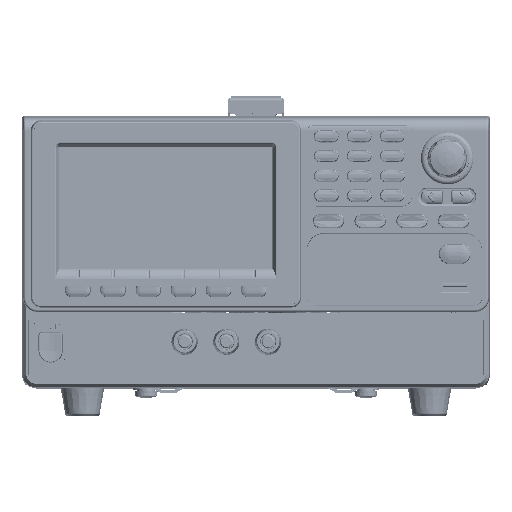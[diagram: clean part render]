
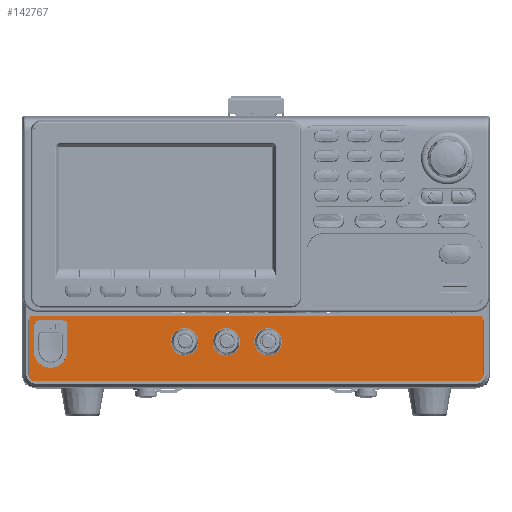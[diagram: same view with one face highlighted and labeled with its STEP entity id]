
A CAD part, top view. The second image highlights one B-rep face of the part: STEP entity #142767.
In plain terms, the highlighted planar face has unit normal (0, 0, 1).
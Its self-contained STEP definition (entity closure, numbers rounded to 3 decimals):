
#142331=CARTESIAN_POINT('',(-101.5,-31.,0.3));
#142332=DIRECTION('',(0.,0.,-1.));
#142333=DIRECTION('',(-1.,0.,0.));
#142334=AXIS2_PLACEMENT_3D('',#142331,#142332,#142333);
#142336=DIRECTION('',(1.,0.,0.));
#142337=VECTOR('',#142336,203.);
#142338=CARTESIAN_POINT('',(-101.5,-29.1,0.3));
#142339=LINE('',#142338,#142337);
#142340=CARTESIAN_POINT('',(101.5,-31.,0.3));
#142341=DIRECTION('',(0.,0.,-1.));
#142342=DIRECTION('',(0.,1.,0.));
#142343=AXIS2_PLACEMENT_3D('',#142340,#142341,#142342);
#142345=DIRECTION('',(0.,-1.,0.));
#142346=VECTOR('',#142345,25.);
#142347=CARTESIAN_POINT('',(103.4,-31.,0.3));
#142348=LINE('',#142347,#142346);
#142349=CARTESIAN_POINT('',(100.5,-56.,0.3));
#142350=DIRECTION('',(0.,0.,-1.));
#142351=DIRECTION('',(1.,0.,0.));
#142352=AXIS2_PLACEMENT_3D('',#142349,#142350,#142351);
#142354=DIRECTION('',(-1.,0.,0.));
#142355=VECTOR('',#142354,201.);
#142356=CARTESIAN_POINT('',(100.5,-58.9,0.3));
#142357=LINE('',#142356,#142355);
#142358=CARTESIAN_POINT('',(-100.5,-56.,0.3));
#142359=DIRECTION('',(0.,0.,-1.));
#142360=DIRECTION('',(0.,-1.,0.));
#142361=AXIS2_PLACEMENT_3D('',#142358,#142359,#142360);
#142363=DIRECTION('',(0.,1.,0.));
#142364=VECTOR('',#142363,25.);
#142365=CARTESIAN_POINT('',(-103.4,-56.,0.3));
#142366=LINE('',#142365,#142364);
#142367=CARTESIAN_POINT('',(-32.5,-41.,0.3));
#142368=DIRECTION('',(0.,0.,1.));
#142369=DIRECTION('',(1.,0.,0.));
#142370=AXIS2_PLACEMENT_3D('',#142367,#142368,#142369);
#142372=CARTESIAN_POINT('',(-32.5,-41.,0.3));
#142373=DIRECTION('',(0.,0.,1.));
#142374=DIRECTION('',(-1.,0.,0.));
#142375=AXIS2_PLACEMENT_3D('',#142372,#142373,#142374);
#142377=CARTESIAN_POINT('',(-13.5,-41.,0.3));
#142378=DIRECTION('',(0.,0.,1.));
#142379=DIRECTION('',(1.,0.,0.));
#142380=AXIS2_PLACEMENT_3D('',#142377,#142378,#142379);
#142382=CARTESIAN_POINT('',(-13.5,-41.,0.3));
#142383=DIRECTION('',(0.,0.,1.));
#142384=DIRECTION('',(-1.,0.,0.));
#142385=AXIS2_PLACEMENT_3D('',#142382,#142383,#142384);
#142387=CARTESIAN_POINT('',(5.5,-41.,0.3));
#142388=DIRECTION('',(0.,0.,1.));
#142389=DIRECTION('',(1.,0.,0.));
#142390=AXIS2_PLACEMENT_3D('',#142387,#142388,#142389);
#142392=CARTESIAN_POINT('',(5.5,-41.,0.3));
#142393=DIRECTION('',(0.,0.,1.));
#142394=DIRECTION('',(-1.,0.,0.));
#142395=AXIS2_PLACEMENT_3D('',#142392,#142393,#142394);
#142397=CARTESIAN_POINT('',(-93.5,-45.1,0.3));
#142398=DIRECTION('',(0.,0.,1.));
#142399=DIRECTION('',(-1.,0.,0.));
#142400=AXIS2_PLACEMENT_3D('',#142397,#142398,#142399);
#142402=CARTESIAN_POINT('',(-88.,-33.5,0.3));
#142403=DIRECTION('',(0.,0.,1.));
#142404=DIRECTION('',(1.,0.,0.));
#142405=AXIS2_PLACEMENT_3D('',#142402,#142403,#142404);
#142407=CARTESIAN_POINT('',(-99.,-33.5,0.3));
#142408=DIRECTION('',(0.,0.,1.));
#142409=DIRECTION('',(0.,1.,0.));
#142410=AXIS2_PLACEMENT_3D('',#142407,#142408,#142409);
#142444=DIRECTION('',(0.,-1.,0.));
#142445=VECTOR('',#142444,11.6);
#142446=CARTESIAN_POINT('',(-85.8,-33.5,0.3));
#142447=LINE('',#142446,#142445);
#142456=DIRECTION('',(1.,0.,0.));
#142457=VECTOR('',#142456,11.);
#142458=CARTESIAN_POINT('',(-99.,-31.3,0.3));
#142459=LINE('',#142458,#142457);
#142468=DIRECTION('',(0.,1.,0.));
#142469=VECTOR('',#142468,11.6);
#142470=CARTESIAN_POINT('',(-101.2,-45.1,0.3));
#142471=LINE('',#142470,#142469);
#142512=CARTESIAN_POINT('',(-101.5,-29.1,0.3));
#142513=VERTEX_POINT('',#142512);
#142514=CARTESIAN_POINT('',(-103.4,-31.,0.3));
#142515=VERTEX_POINT('',#142514);
#142516=CARTESIAN_POINT('',(101.5,-29.1,0.3));
#142517=VERTEX_POINT('',#142516);
#142518=CARTESIAN_POINT('',(103.4,-31.,0.3));
#142519=VERTEX_POINT('',#142518);
#142520=CARTESIAN_POINT('',(103.4,-56.,0.3));
#142521=VERTEX_POINT('',#142520);
#142522=CARTESIAN_POINT('',(100.5,-58.9,0.3));
#142523=VERTEX_POINT('',#142522);
#142524=CARTESIAN_POINT('',(-100.5,-58.9,0.3));
#142525=VERTEX_POINT('',#142524);
#142526=CARTESIAN_POINT('',(-103.4,-56.,0.3));
#142527=VERTEX_POINT('',#142526);
#142528=CARTESIAN_POINT('',(-26.25,-41.,0.3));
#142529=CARTESIAN_POINT('',(-38.75,-41.,0.3));
#142530=VERTEX_POINT('',#142528);
#142531=VERTEX_POINT('',#142529);
#142532=CARTESIAN_POINT('',(-7.25,-41.,0.3));
#142533=CARTESIAN_POINT('',(-19.75,-41.,0.3));
#142534=VERTEX_POINT('',#142532);
#142535=VERTEX_POINT('',#142533);
#142536=CARTESIAN_POINT('',(11.75,-41.,0.3));
#142537=CARTESIAN_POINT('',(-0.75,-41.,0.3));
#142538=VERTEX_POINT('',#142536);
#142539=VERTEX_POINT('',#142537);
#142540=CARTESIAN_POINT('',(-101.2,-45.1,0.3));
#142541=CARTESIAN_POINT('',(-85.8,-45.1,0.3));
#142542=VERTEX_POINT('',#142540);
#142543=VERTEX_POINT('',#142541);
#142544=CARTESIAN_POINT('',(-85.8,-33.5,0.3));
#142545=VERTEX_POINT('',#142544);
#142546=CARTESIAN_POINT('',(-88.,-31.3,0.3));
#142547=VERTEX_POINT('',#142546);
#142548=CARTESIAN_POINT('',(-99.,-31.3,0.3));
#142549=VERTEX_POINT('',#142548);
#142550=CARTESIAN_POINT('',(-101.2,-33.5,0.3));
#142551=VERTEX_POINT('',#142550);
#142720=CARTESIAN_POINT('',(0.,0.,0.3));
#142721=DIRECTION('',(0.,0.,1.));
#142722=DIRECTION('',(1.,0.,0.));
#142723=AXIS2_PLACEMENT_3D('',#142720,#142721,#142722);
#142724=PLANE('',#142723);
#142725=ORIENTED_EDGE('',*,*,#142616,.T.);
#142726=ORIENTED_EDGE('',*,*,#142631,.T.);
#142727=ORIENTED_EDGE('',*,*,#142645,.T.);
#142728=ORIENTED_EDGE('',*,*,#142659,.T.);
#142729=ORIENTED_EDGE('',*,*,#142673,.T.);
#142730=ORIENTED_EDGE('',*,*,#142687,.T.);
#142731=ORIENTED_EDGE('',*,*,#142701,.T.);
#142732=ORIENTED_EDGE('',*,*,#142714,.T.);
#142733=EDGE_LOOP('',(#142725,#142726,#142727,#142728,#142729,#142730,#142731,
#142732));
#142734=FACE_OUTER_BOUND('',#142733,.F.);
#142736=ORIENTED_EDGE('',*,*,#142735,.T.);
#142738=ORIENTED_EDGE('',*,*,#142737,.T.);
#142739=EDGE_LOOP('',(#142736,#142738));
#142740=FACE_BOUND('',#142739,.F.);
#142742=ORIENTED_EDGE('',*,*,#142741,.T.);
#142744=ORIENTED_EDGE('',*,*,#142743,.T.);
#142745=EDGE_LOOP('',(#142742,#142744));
#142746=FACE_BOUND('',#142745,.F.);
#142748=ORIENTED_EDGE('',*,*,#142747,.T.);
#142750=ORIENTED_EDGE('',*,*,#142749,.T.);
#142751=EDGE_LOOP('',(#142748,#142750));
#142752=FACE_BOUND('',#142751,.F.);
#142754=ORIENTED_EDGE('',*,*,#142753,.T.);
#142756=ORIENTED_EDGE('',*,*,#142755,.F.);
#142758=ORIENTED_EDGE('',*,*,#142757,.T.);
#142760=ORIENTED_EDGE('',*,*,#142759,.F.);
#142762=ORIENTED_EDGE('',*,*,#142761,.T.);
#142764=ORIENTED_EDGE('',*,*,#142763,.F.);
#142765=EDGE_LOOP('',(#142754,#142756,#142758,#142760,#142762,#142764));
#142766=FACE_BOUND('',#142765,.F.);
#142767=ADVANCED_FACE('',(#142734,#142740,#142746,#142752,#142766),#142724,.T.);
#142335=CIRCLE('',#142334,1.9);
#142344=CIRCLE('',#142343,1.9);
#142353=CIRCLE('',#142352,2.9);
#142362=CIRCLE('',#142361,2.9);
#142371=CIRCLE('',#142370,6.25);
#142376=CIRCLE('',#142375,6.25);
#142381=CIRCLE('',#142380,6.25);
#142386=CIRCLE('',#142385,6.25);
#142391=CIRCLE('',#142390,6.25);
#142396=CIRCLE('',#142395,6.25);
#142401=CIRCLE('',#142400,7.7);
#142406=CIRCLE('',#142405,2.2);
#142411=CIRCLE('',#142410,2.2);
#142616=EDGE_CURVE('',#142515,#142513,#142335,.T.);
#142631=EDGE_CURVE('',#142513,#142517,#142339,.T.);
#142645=EDGE_CURVE('',#142517,#142519,#142344,.T.);
#142659=EDGE_CURVE('',#142519,#142521,#142348,.T.);
#142673=EDGE_CURVE('',#142521,#142523,#142353,.T.);
#142687=EDGE_CURVE('',#142523,#142525,#142357,.T.);
#142701=EDGE_CURVE('',#142525,#142527,#142362,.T.);
#142714=EDGE_CURVE('',#142527,#142515,#142366,.T.);
#142735=EDGE_CURVE('',#142530,#142531,#142371,.T.);
#142737=EDGE_CURVE('',#142531,#142530,#142376,.T.);
#142741=EDGE_CURVE('',#142534,#142535,#142381,.T.);
#142743=EDGE_CURVE('',#142535,#142534,#142386,.T.);
#142747=EDGE_CURVE('',#142538,#142539,#142391,.T.);
#142749=EDGE_CURVE('',#142539,#142538,#142396,.T.);
#142753=EDGE_CURVE('',#142542,#142543,#142401,.T.);
#142755=EDGE_CURVE('',#142545,#142543,#142447,.T.);
#142757=EDGE_CURVE('',#142545,#142547,#142406,.T.);
#142759=EDGE_CURVE('',#142549,#142547,#142459,.T.);
#142761=EDGE_CURVE('',#142549,#142551,#142411,.T.);
#142763=EDGE_CURVE('',#142542,#142551,#142471,.T.);
